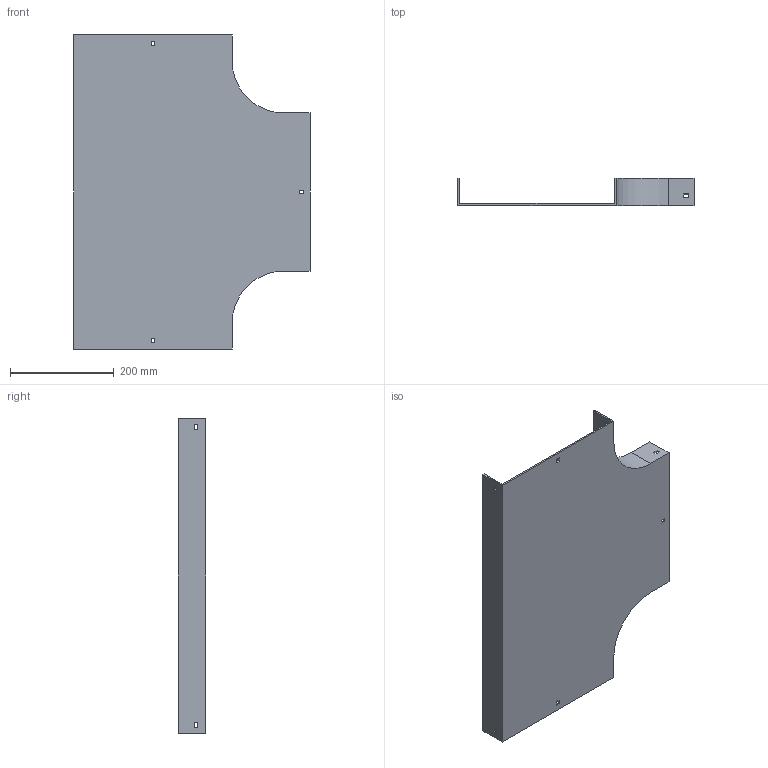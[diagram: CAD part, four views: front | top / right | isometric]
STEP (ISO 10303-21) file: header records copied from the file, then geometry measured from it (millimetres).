
FILE_DESCRIPTION (( 'STEP AP214' ), '1' );
FILE_NAME ('15B1B300.step', '2025-02-21T09:54:17', ( '' ), ( '' ), 'SwSTEP 2.0', 'SolidWorks 2023', '' );
FILE_SCHEMA (( 'AUTOMOTIVE_DESIGN' ));
Length unit declared in the file: millimetre
Products named in the file (1): 15B1B300
Bounding box: 454 x 52 x 604 mm (x, y, z)
Volume: 1005934.7 mm3; surface area: 583983.4 mm2
Topology: 1 solids, 1 shells, 58 faces, 168 edges, 112 vertices
Faces by surface type: plane 54, cylinder 4
Entity records: 1939 total; most frequent: CARTESIAN_POINT 339, ORIENTED_EDGE 336, DIRECTION 294, EDGE_CURVE 168, LINE 160, VECTOR 160, VERTEX_POINT 112, EDGE_LOOP 76
